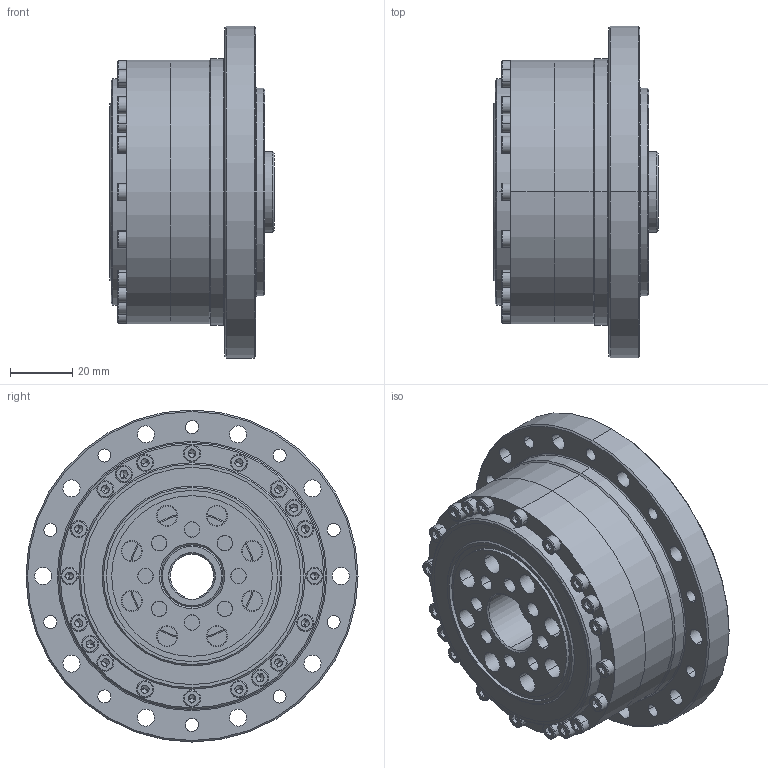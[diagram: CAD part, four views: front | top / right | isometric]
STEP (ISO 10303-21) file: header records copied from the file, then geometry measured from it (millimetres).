
FILE_DESCRIPTION (( 'STEP AP203' ), '1' );
FILE_NAME ('LCSG-25-XXX-C-II.STEP', '2016-08-18T03:24:14', ( 'Windows 蚚誧' ), ( 'Users' ), 'SwSTEP 2.0', 'SolidWorks 2013', '' );
FILE_SCHEMA (( 'CONFIG_CONTROL_DESIGN' ));
Length unit declared in the file: millimetre
Products named in the file (18): RZC-25悵厥殤; socket head cap screw_din_内六角圆柱头螺钉M6 x 16; 柔性轴承RZC-25G; socket head cap screw_din_内六角圆柱头螺钉M3 x 20; circlips for shaft--type b gb_GB_CONNECTING_PIECE_RINGS_CSB 25; socket head cap screw_din_内六角圆柱头螺钉M3 x 12; LCSG-25-II疏楷汜ん; LJ-25G-II; LCSG-25-XXX-P04-II; LCSG-25-XXX-C-II; SZ-25G-II; LCSG-25-XXX-P02-II; LCSG-25-XXX-P03-II; LCSG-25-XXX-P01-II; DB-25G-II; YF-25-II; RZC-25G内外圈+钢球; LCSG-25-XXX-P05-II
Assembly tree (42 placements, depth 4):
  LCSG-25-XXX-C-II
    LCSG-25-XXX-P04-II
    LCSG-25-XXX-P02-II
    LCSG-25-XXX-P01-II
    YF-25-II
    LCSG-25-XXX-P05-II
    socket head cap screw_din_内六角圆柱头螺钉M6 x 16  x8
    socket head cap screw_din_内六角圆柱头螺钉M3 x 20  x16
    socket head cap screw_din_内六角圆柱头螺钉M3 x 12  x4
    LCSG-25-II疏楷汜ん
      LJ-25G-II
      SZ-25G-II
      LCSG-25-XXX-P03-II
      DB-25G-II
      柔性轴承RZC-25G
        RZC-25G内外圈+钢球
        RZC-25悵厥殤
      circlips for shaft--type b gb_GB_CONNECTING_PIECE_RINGS_CSB 25
Bounding box: 53 x 107 x 107 mm (x, y, z)
Volume: 209071.1 mm3; surface area: 133049.3 mm2
Topology: 65 solids, 66 shells, 1497 faces, 3531 edges, 2138 vertices
Faces by surface type: plane 571, cylinder 500, cone 228, torus 152, sphere 46
Entity records: 27091 total; most frequent: DIRECTION 4797, CARTESIAN_POINT 4149, ORIENTED_EDGE 3856, AXIS2_PLACEMENT_3D 2036, EDGE_CURVE 1928, VERTEX_POINT 1244, CIRCLE 1167, EDGE_LOOP 1054
